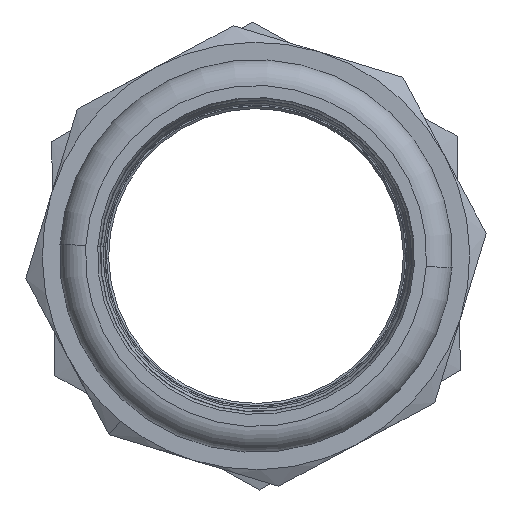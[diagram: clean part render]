
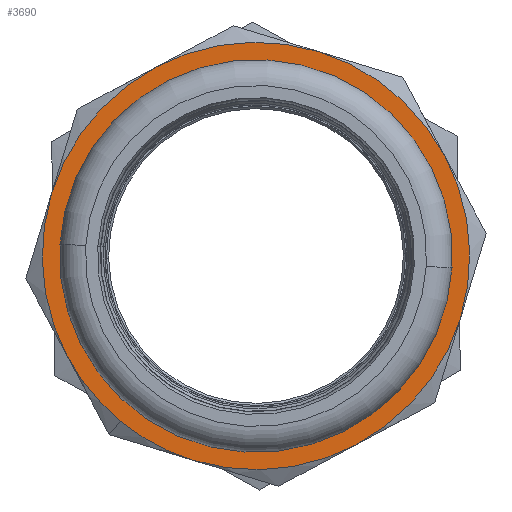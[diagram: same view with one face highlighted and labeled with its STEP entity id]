
A CAD part, left-side view. The second image highlights one B-rep face of the part: STEP entity #3690.
In plain terms, the highlighted planar face has unit normal (-1, 0, 0) as drawn and (0, 1, 0) by its records, which use the part's own axes.
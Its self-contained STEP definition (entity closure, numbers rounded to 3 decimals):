
#27 = DIRECTION ( 'NONE',  ( 0., 0., 1. ) ) ;
#96 = EDGE_CURVE ( 'NONE', #801, #3652, #1100, .T. ) ;
#110 = CARTESIAN_POINT ( 'NONE',  ( -11.098, 23., 26.793 ) ) ;
#113 = ORIENTED_EDGE ( 'NONE', *, *, #1874, .T. ) ;
#131 = CIRCLE ( 'NONE', #1427, 23.15 ) ;
#172 = VERTEX_POINT ( 'NONE', #2381 ) ;
#180 = EDGE_CURVE ( 'NONE', #702, #2240, #3969, .T. ) ;
#183 = ORIENTED_EDGE ( 'NONE', *, *, #96, .T. ) ;
#184 = ORIENTED_EDGE ( 'NONE', *, *, #2303, .T. ) ;
#186 = CARTESIAN_POINT ( 'NONE',  ( 0., 23., 0. ) ) ;
#198 = DIRECTION ( 'NONE',  ( 0., 1., 0. ) ) ;
#219 = CARTESIAN_POINT ( 'NONE',  ( 0., 23., 0. ) ) ;
#228 = DIRECTION ( 'NONE',  ( 0., 1., 0. ) ) ;
#251 = CARTESIAN_POINT ( 'NONE',  ( 0., 23., 0. ) ) ;
#259 = CARTESIAN_POINT ( 'NONE',  ( 0., 23., 0. ) ) ;
#274 = DIRECTION ( 'NONE',  ( 0., 0., 1. ) ) ;
#295 = ORIENTED_EDGE ( 'NONE', *, *, #180, .T. ) ;
#402 = CIRCLE ( 'NONE', #1207, 23.15 ) ;
#580 = CARTESIAN_POINT ( 'NONE',  ( 0., 23., -23.15 ) ) ;
#585 = CIRCLE ( 'NONE', #4134, 29. ) ;
#594 = CIRCLE ( 'NONE', #3435, 29. ) ;
#631 = DIRECTION ( 'NONE',  ( 0., 1., 0. ) ) ;
#655 = ORIENTED_EDGE ( 'NONE', *, *, #3698, .F. ) ;
#702 = VERTEX_POINT ( 'NONE', #2889 ) ;
#771 = CARTESIAN_POINT ( 'NONE',  ( -26.793, 23., 11.098 ) ) ;
#778 = ORIENTED_EDGE ( 'NONE', *, *, #1058, .T. ) ;
#801 = VERTEX_POINT ( 'NONE', #3695 ) ;
#932 = CARTESIAN_POINT ( 'NONE',  ( 0., 23., 0. ) ) ;
#970 = CARTESIAN_POINT ( 'NONE',  ( 0., 23., 0. ) ) ;
#1038 = CIRCLE ( 'NONE', #1283, 29. ) ;
#1054 = DIRECTION ( 'NONE',  ( 0., 1., 0. ) ) ;
#1058 = EDGE_CURVE ( 'NONE', #1479, #3394, #585, .T. ) ;
#1092 = FACE_BOUND ( 'NONE', #1256, .T. ) ;
#1100 = CIRCLE ( 'NONE', #1967, 29. ) ;
#1157 = CARTESIAN_POINT ( 'NONE',  ( 26.793, 23., 11.098 ) ) ;
#1190 = CIRCLE ( 'NONE', #1732, 29. ) ;
#1207 = AXIS2_PLACEMENT_3D ( 'NONE', #970, #4299, #274 ) ;
#1235 = DIRECTION ( 'NONE',  ( 0., 1., 0. ) ) ;
#1248 = FACE_OUTER_BOUND ( 'NONE', #3601, .T. ) ;
#1256 = EDGE_LOOP ( 'NONE', ( #655, #2915 ) ) ;
#1283 = AXIS2_PLACEMENT_3D ( 'NONE', #251, #228, #4239 ) ;
#1297 = ORIENTED_EDGE ( 'NONE', *, *, #3671, .T. ) ;
#1354 = DIRECTION ( 'NONE',  ( 0., 1., 0. ) ) ;
#1366 = AXIS2_PLACEMENT_3D ( 'NONE', #4169, #1477, #3158 ) ;
#1427 = AXIS2_PLACEMENT_3D ( 'NONE', #186, #2538, #3187 ) ;
#1477 = DIRECTION ( 'NONE',  ( 0., 1., 0. ) ) ;
#1479 = VERTEX_POINT ( 'NONE', #771 ) ;
#1539 = ORIENTED_EDGE ( 'NONE', *, *, #3593, .T. ) ;
#1596 = DIRECTION ( 'NONE',  ( 0., 1., 0. ) ) ;
#1620 = CARTESIAN_POINT ( 'NONE',  ( 0., 23., 0. ) ) ;
#1732 = AXIS2_PLACEMENT_3D ( 'NONE', #932, #198, #3950 ) ;
#1861 = AXIS2_PLACEMENT_3D ( 'NONE', #259, #1235, #3908 ) ;
#1874 = EDGE_CURVE ( 'NONE', #3394, #702, #594, .T. ) ;
#1908 = CARTESIAN_POINT ( 'NONE',  ( 0., 23., 0. ) ) ;
#1967 = AXIS2_PLACEMENT_3D ( 'NONE', #3675, #1354, #27 ) ;
#2025 = CARTESIAN_POINT ( 'NONE',  ( 11.098, 23., -26.793 ) ) ;
#2036 = CARTESIAN_POINT ( 'NONE',  ( 0., 23., 0. ) ) ;
#2040 = DIRECTION ( 'NONE',  ( 0., 0., 1. ) ) ;
#2223 = VERTEX_POINT ( 'NONE', #1157 ) ;
#2240 = VERTEX_POINT ( 'NONE', #4184 ) ;
#2268 = PLANE ( 'NONE',  #1861 ) ;
#2303 = EDGE_CURVE ( 'NONE', #2395, #801, #3660, .T. ) ;
#2381 = CARTESIAN_POINT ( 'NONE',  ( 26.793, 23., -11.098 ) ) ;
#2386 = DIRECTION ( 'NONE',  ( 0., 0., 1. ) ) ;
#2395 = VERTEX_POINT ( 'NONE', #2025 ) ;
#2538 = DIRECTION ( 'NONE',  ( 0., 1., 0. ) ) ;
#2557 = CARTESIAN_POINT ( 'NONE',  ( -26.793, 23., -11.098 ) ) ;
#2574 = CARTESIAN_POINT ( 'NONE',  ( 0., 23., 23.15 ) ) ;
#2760 = VERTEX_POINT ( 'NONE', #580 ) ;
#2889 = CARTESIAN_POINT ( 'NONE',  ( 0., 23., 29. ) ) ;
#2891 = DIRECTION ( 'NONE',  ( 0., 1., 0. ) ) ;
#2915 = ORIENTED_EDGE ( 'NONE', *, *, #3577, .F. ) ;
#2970 = DIRECTION ( 'NONE',  ( 0., 0., 1. ) ) ;
#2978 = CIRCLE ( 'NONE', #4111, 29. ) ;
#3158 = DIRECTION ( 'NONE',  ( 0., 0., 1. ) ) ;
#3187 = DIRECTION ( 'NONE',  ( 0., 0., 1. ) ) ;
#3270 = DIRECTION ( 'NONE',  ( 0., 0., 1. ) ) ;
#3316 = EDGE_CURVE ( 'NONE', #172, #2395, #4075, .T. ) ;
#3394 = VERTEX_POINT ( 'NONE', #110 ) ;
#3435 = AXIS2_PLACEMENT_3D ( 'NONE', #1620, #631, #2970 ) ;
#3577 = EDGE_CURVE ( 'NONE', #2760, #3681, #131, .T. ) ;
#3593 = EDGE_CURVE ( 'NONE', #3652, #1479, #2978, .T. ) ;
#3601 = EDGE_LOOP ( 'NONE', ( #113, #295, #1297, #4052, #4129, #184, #183, #1539, #778 ) ) ;
#3609 = EDGE_CURVE ( 'NONE', #2223, #172, #1038, .T. ) ;
#3652 = VERTEX_POINT ( 'NONE', #2557 ) ;
#3660 = CIRCLE ( 'NONE', #1366, 29. ) ;
#3663 = AXIS2_PLACEMENT_3D ( 'NONE', #4100, #4080, #2040 ) ;
#3671 = EDGE_CURVE ( 'NONE', #2240, #2223, #1190, .T. ) ;
#3675 = CARTESIAN_POINT ( 'NONE',  ( 0., 23., 0. ) ) ;
#3681 = VERTEX_POINT ( 'NONE', #2574 ) ;
#3690 = ADVANCED_FACE ( 'NONE', ( #1092, #1248 ), #2268, .T. ) ;
#3695 = CARTESIAN_POINT ( 'NONE',  ( -11.098, 23., -26.793 ) ) ;
#3698 = EDGE_CURVE ( 'NONE', #3681, #2760, #402, .T. ) ;
#3828 = AXIS2_PLACEMENT_3D ( 'NONE', #2036, #1054, #2386 ) ;
#3863 = DIRECTION ( 'NONE',  ( 0., 0., 1. ) ) ;
#3908 = DIRECTION ( 'NONE',  ( 0., 0., 1. ) ) ;
#3950 = DIRECTION ( 'NONE',  ( 0., 0., 1. ) ) ;
#3969 = CIRCLE ( 'NONE', #3663, 29. ) ;
#4052 = ORIENTED_EDGE ( 'NONE', *, *, #3609, .T. ) ;
#4075 = CIRCLE ( 'NONE', #3828, 29. ) ;
#4080 = DIRECTION ( 'NONE',  ( 0., 1., 0. ) ) ;
#4100 = CARTESIAN_POINT ( 'NONE',  ( 0., 23., 0. ) ) ;
#4111 = AXIS2_PLACEMENT_3D ( 'NONE', #1908, #1596, #3270 ) ;
#4129 = ORIENTED_EDGE ( 'NONE', *, *, #3316, .T. ) ;
#4134 = AXIS2_PLACEMENT_3D ( 'NONE', #219, #2891, #3863 ) ;
#4169 = CARTESIAN_POINT ( 'NONE',  ( 0., 23., 0. ) ) ;
#4184 = CARTESIAN_POINT ( 'NONE',  ( 11.098, 23., 26.793 ) ) ;
#4239 = DIRECTION ( 'NONE',  ( 0., 0., 1. ) ) ;
#4299 = DIRECTION ( 'NONE',  ( 0., 1., 0. ) ) ;
